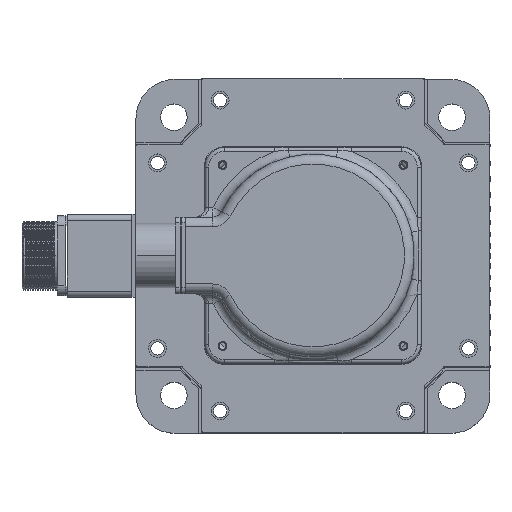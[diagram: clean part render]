
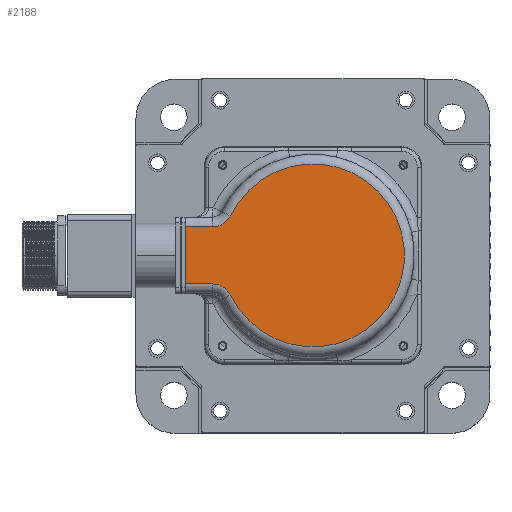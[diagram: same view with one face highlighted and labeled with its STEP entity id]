
A CAD part, top view. The second image highlights one B-rep face of the part: STEP entity #2188.
In plain terms, the highlighted planar face has unit normal (0, 0, 1).
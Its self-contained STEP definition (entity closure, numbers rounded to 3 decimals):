
#175 = VECTOR ( 'NONE', #23897, 1000. ) ;
#609 = VERTEX_POINT ( 'NONE', #19815 ) ;
#641 = EDGE_CURVE ( 'NONE', #609, #14621, #15609, .T. ) ;
#1307 = EDGE_CURVE ( 'NONE', #27986, #26503, #2577, .T. ) ;
#1367 = AXIS2_PLACEMENT_3D ( 'NONE', #6587, #16478, #26362 ) ;
#1612 = FACE_OUTER_BOUND ( 'NONE', #12181, .T. ) ;
#2014 = ORIENTED_EDGE ( 'NONE', *, *, #9043, .F. ) ;
#2188 = ADVANCED_FACE ( 'NONE', ( #1612 ), #23973, .T. ) ;
#2213 = AXIS2_PLACEMENT_3D ( 'NONE', #16045, #13773, #26404 ) ;
#2577 = LINE ( 'NONE', #19931, #27541 ) ;
#2693 = ORIENTED_EDGE ( 'NONE', *, *, #1307, .T. ) ;
#4566 = DIRECTION ( 'NONE',  ( 0., 0., 1. ) ) ;
#6233 = ORIENTED_EDGE ( 'NONE', *, *, #12201, .T. ) ;
#6587 = CARTESIAN_POINT ( 'NONE',  ( 0., 0., 366. ) ) ;
#7044 = CIRCLE ( 'NONE', #1367, 46.5 ) ;
#8628 = DIRECTION ( 'NONE',  ( -1., 0., 0. ) ) ;
#9043 = EDGE_CURVE ( 'NONE', #24424, #26503, #29059, .T. ) ;
#9237 = CIRCLE ( 'NONE', #25785, 10. ) ;
#9430 = DIRECTION ( 'NONE',  ( -1., 0., 0. ) ) ;
#9526 = CARTESIAN_POINT ( 'NONE',  ( -47.666, -14.5, 366. ) ) ;
#12029 = CARTESIAN_POINT ( 'NONE',  ( -50.912, -24.5, 366. ) ) ;
#12126 = DIRECTION ( 'NONE',  ( 1., 0., 0. ) ) ;
#12181 = EDGE_LOOP ( 'NONE', ( #28566, #2693, #2014, #25071, #13310, #6233 ) ) ;
#12201 = EDGE_CURVE ( 'NONE', #609, #26822, #7044, .T. ) ;
#13310 = ORIENTED_EDGE ( 'NONE', *, *, #641, .F. ) ;
#13773 = DIRECTION ( 'NONE',  ( 0., 0., 1. ) ) ;
#14589 = AXIS2_PLACEMENT_3D ( 'NONE', #12029, #4566, #9430 ) ;
#14621 = VERTEX_POINT ( 'NONE', #24848 ) ;
#15609 = CIRCLE ( 'NONE', #14589, 10. ) ;
#16045 = CARTESIAN_POINT ( 'NONE',  ( 0., 0., 366. ) ) ;
#16443 = CARTESIAN_POINT ( 'NONE',  ( -65., 0., 366. ) ) ;
#16478 = DIRECTION ( 'NONE',  ( 0., 0., 1. ) ) ;
#18132 = DIRECTION ( 'NONE',  ( -1., 0., 0. ) ) ;
#19815 = CARTESIAN_POINT ( 'NONE',  ( -41.901, -20.164, 366. ) ) ;
#19931 = CARTESIAN_POINT ( 'NONE',  ( 0., 14.5, 366. ) ) ;
#20958 = DIRECTION ( 'NONE',  ( 0., 0., 1. ) ) ;
#21059 = EDGE_CURVE ( 'NONE', #27986, #26822, #9237, .T. ) ;
#22022 = VECTOR ( 'NONE', #12126, 1000. ) ;
#22264 = CARTESIAN_POINT ( 'NONE',  ( -65., -14.5, 366. ) ) ;
#23897 = DIRECTION ( 'NONE',  ( 0., 1., 0. ) ) ;
#23973 = PLANE ( 'NONE',  #2213 ) ;
#24424 = VERTEX_POINT ( 'NONE', #22264 ) ;
#24583 = CARTESIAN_POINT ( 'NONE',  ( -65., 14.5, 366. ) ) ;
#24599 = LINE ( 'NONE', #9526, #22022 ) ;
#24848 = CARTESIAN_POINT ( 'NONE',  ( -50.912, -14.5, 366. ) ) ;
#25071 = ORIENTED_EDGE ( 'NONE', *, *, #29068, .T. ) ;
#25785 = AXIS2_PLACEMENT_3D ( 'NONE', #30821, #20958, #8628 ) ;
#26362 = DIRECTION ( 'NONE',  ( -1., 0., 0. ) ) ;
#26404 = DIRECTION ( 'NONE',  ( -1., 0., 0. ) ) ;
#26470 = CARTESIAN_POINT ( 'NONE',  ( -50.912, 14.5, 366. ) ) ;
#26503 = VERTEX_POINT ( 'NONE', #24583 ) ;
#26822 = VERTEX_POINT ( 'NONE', #28462 ) ;
#27541 = VECTOR ( 'NONE', #18132, 1000. ) ;
#27986 = VERTEX_POINT ( 'NONE', #26470 ) ;
#28462 = CARTESIAN_POINT ( 'NONE',  ( -41.901, 20.164, 366. ) ) ;
#28566 = ORIENTED_EDGE ( 'NONE', *, *, #21059, .F. ) ;
#29059 = LINE ( 'NONE', #16443, #175 ) ;
#29068 = EDGE_CURVE ( 'NONE', #24424, #14621, #24599, .T. ) ;
#30821 = CARTESIAN_POINT ( 'NONE',  ( -50.912, 24.5, 366. ) ) ;
